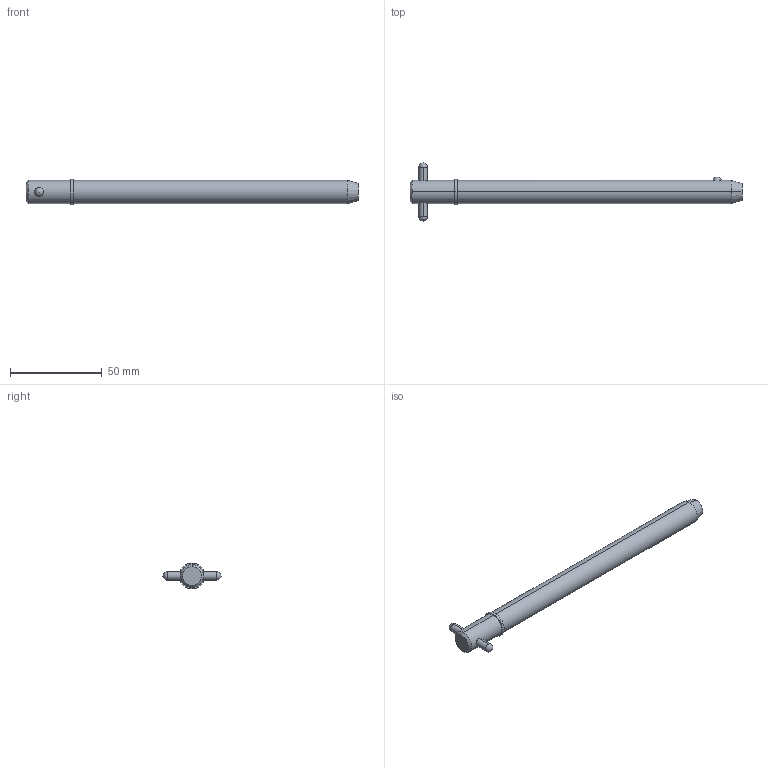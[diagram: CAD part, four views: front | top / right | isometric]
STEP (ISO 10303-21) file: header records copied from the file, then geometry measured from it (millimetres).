
FILE_DESCRIPTION (( 'STEP AP203' ), '1' );
FILE_NAME ('33018.W5055.step', '2024-11-19T17:15:41', ( '' ), ( '' ), 'SwSTEP 2.0', 'SolidWorks 2019', '' );
FILE_SCHEMA (( 'CONFIG_CONTROL_DESIGN' ));
Length unit declared in the file: millimetre
Products named in the file (3): 33018.W5055; Part1_33018.W5055; Part2_33018.W5055
Assembly tree (2 placements, depth 2):
  33018.W5055
    Part1_33018.W5055
    Part2_33018.W5055
Bounding box: 181.28 x 31.75 x 13.97 mm (x, y, z)
Volume: 23130.7 mm3; surface area: 8069 mm2
Topology: 2 solids, 2 shells, 22 faces, 47 edges, 30 vertices
Faces by surface type: cylinder 10, sphere 4, cone 4, plane 4
Entity records: 1043 total; most frequent: CARTESIAN_POINT 286, DIRECTION 110, ORIENTED_EDGE 82, AXIS2_PLACEMENT_3D 48, EDGE_CURVE 41, EDGE_LOOP 27, PERSON_AND_ORGANIZATION 26, VERTEX_POINT 26
